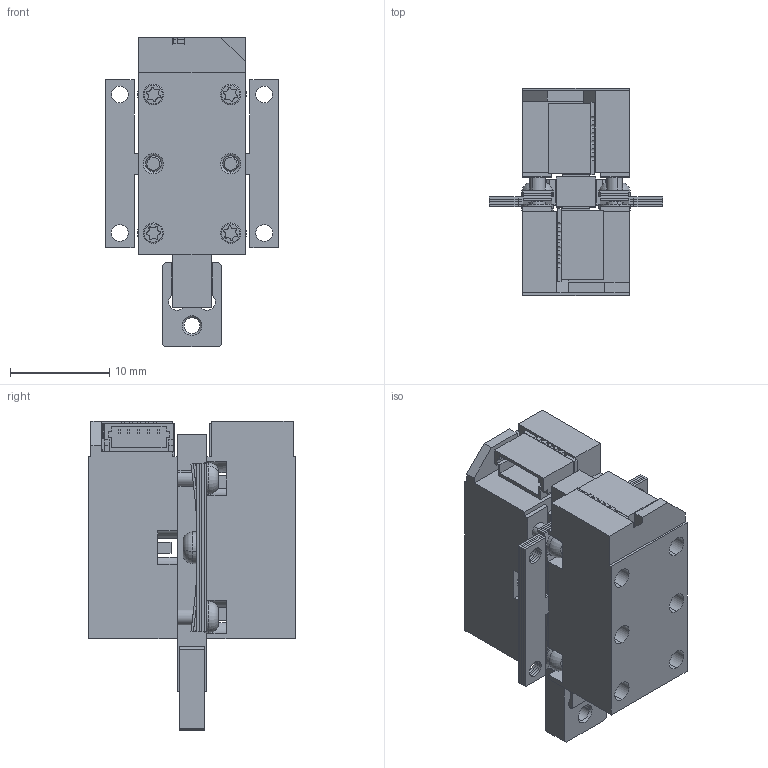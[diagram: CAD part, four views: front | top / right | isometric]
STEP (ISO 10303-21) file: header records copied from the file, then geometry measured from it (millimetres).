
FILE_DESCRIPTION (( 'STEP AP203' ), '1' );
FILE_NAME ('109437 LT2020A-026AAA00_00.step', '2023-02-01T12:31:46', ( '' ), ( '' ), 'SwSTEP 2.0', 'SolidWorks 2022', '' );
FILE_SCHEMA (( 'CONFIG_CONTROL_DESIGN' ));
Length unit declared in the file: millimetre
Products named in the file (27): 101330 Drive Pad 2,8x2,8x0,64 line; Solder Senju Eco ; 100802 Motor Housing LT4-3x3 Top SS; 100805 Motor Housing LT4-3x3 Base SS; 110107 Drive Rod Adapter; 102035 Element assy L4-3x3 w. PCB; 101448 Conn 5p JST BM05B-SRSS-TB top entry; Epo-Tek 353ND; LAB400-34023 Twin Spring_bended tot10N def 0.5 at screw; Epo-Tek H74F; Epo-Tek 353ND-T; 101340 Element L4-3x3 -0,45mm Pt_Element drawing; 100804 Motor Assy LT4-3x3 Base SS_L„ppad; MRT 1.6_MRT 1.6x4 coated; 100319 Drive rod 3x4xL type T_L26; 100803 Motor Assy LT4-3x3 Top SS_L„ppad; 110108-L Drive Rod Assy 3x4xL w. custom adapter_L26; 109437 LT2020A-026AAA00_00; MRT 1.6_MRT 1.6x6 coated; 102060 PCB PM06-02 L4-3x3_Med paddar
Assembly tree (34 placements, depth 4):
  Solder Senju Eco 
  Epo-Tek 353ND
  Epo-Tek H74F
  Epo-Tek 353ND-T
  109437 LT2020A-026AAA00_00
    100804 Motor Assy LT4-3x3 Base SS_L„ppad
      100805 Motor Housing LT4-3x3 Base SS
      102035 Element assy L4-3x3 w. PCB
        102060 PCB PM06-02 L4-3x3_Med paddar
        101340 Element L4-3x3 -0,45mm Pt_Element drawing
        101448 Conn 5p JST BM05B-SRSS-TB top entry
      101330 Drive Pad 2,8x2,8x0,64 line
      101330 Drive Pad 2,8x2,8x0,64 line
      101330 Drive Pad 2,8x2,8x0,64 line
      101330 Drive Pad 2,8x2,8x0,64 line
    LAB400-34023 Twin Spring_bended tot10N def 0.5 at screw  x8
    100803 Motor Assy LT4-3x3 Top SS_L„ppad
      100802 Motor Housing LT4-3x3 Top SS
      102035 Element assy L4-3x3 w. PCB
        102060 PCB PM06-02 L4-3x3_Med paddar
        101340 Element L4-3x3 -0,45mm Pt_Element drawing
        101448 Conn 5p JST BM05B-SRSS-TB top entry
      101330 Drive Pad 2,8x2,8x0,64 line
      101330 Drive Pad 2,8x2,8x0,64 line
      101330 Drive Pad 2,8x2,8x0,64 line
      101330 Drive Pad 2,8x2,8x0,64 line
    110108-L Drive Rod Assy 3x4xL w. custom adapter_L26
      110107 Drive Rod Adapter
      100319 Drive rod 3x4xL type T_L26
    MRT 1.6_MRT 1.6x6 coated  x4
    MRT 1.6_MRT 1.6x4 coated  x2
Bounding box: 17.5 x 20.92 x 31.3 mm (x, y, z)
Volume: 3713.8 mm3; surface area: 7246.7 mm2
Topology: 32 solids, 32 shells, 1186 faces, 3014 edges, 1948 vertices
Faces by surface type: plane 824, cylinder 322, cone 28, torus 12
Entity records: 20458 total; most frequent: CARTESIAN_POINT 3051, DIRECTION 2981, ORIENTED_EDGE 2942, EDGE_CURVE 1471, VECTOR 1181, LINE 1181, VERTEX_POINT 962, AXIS2_PLACEMENT_3D 900
